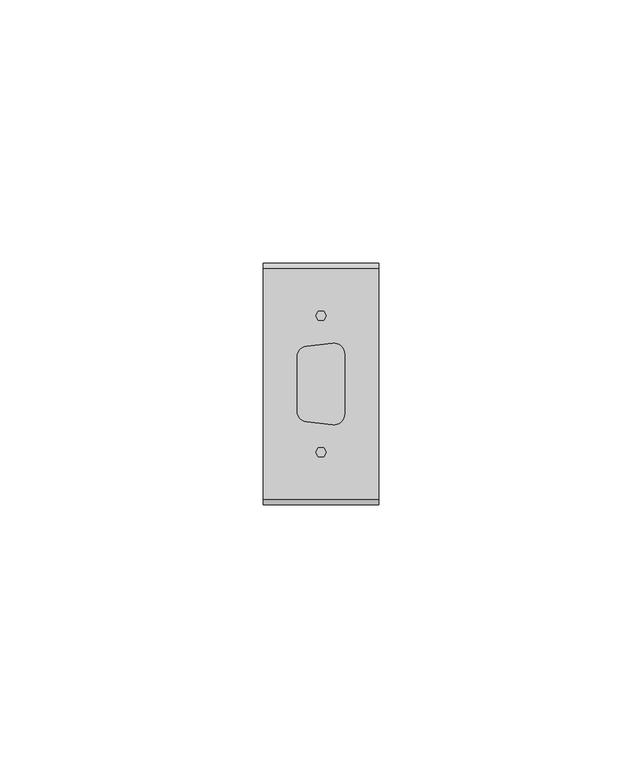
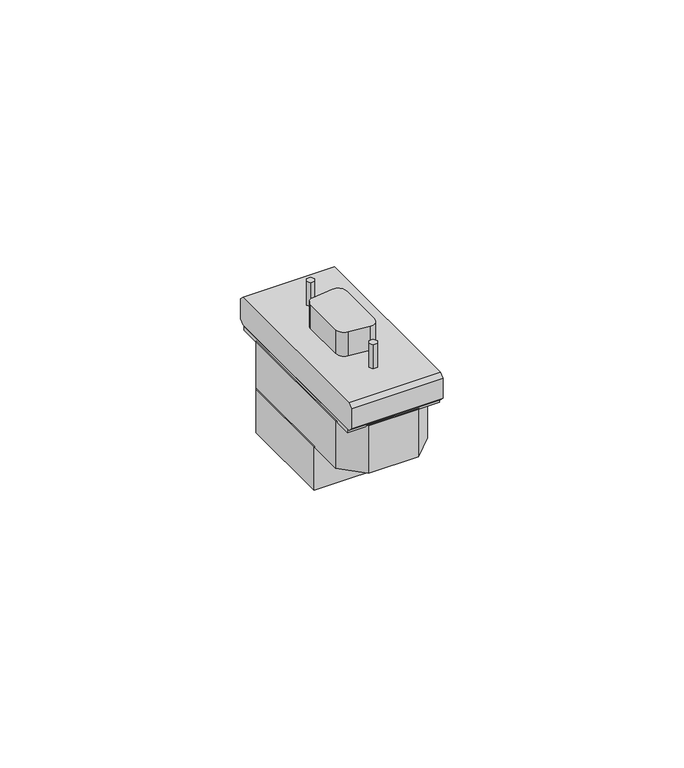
"""IFC4 building model written with IfcOpenShell, lengths in millimetres: proxy geometry, L4282 LI Presa Video HD15 : L4282 LI Presa Video HD15."""

from ifc_helpers import new_model, si_unit, point, frame, frame_2d, origin, origin_with_axes, place, context, project, spatial, polyline, circle_curve, trimmed, segment, composite_curve, outline, extrude, source, transform, mapped, element, save


def electrical_fixtures_90f661d9(model_context):
    return source(origin(), model_context, "Body", "SweptSolid", [
        extrude(outline(composite_curve([segment(trimmed(circle_curve(frame_2d((-2.5, 5.203525)), 2.0), [point((-4.5, 5.203525))], [point((-2.7138212, 7.1920622))], False, "CARTESIAN"), True, "CONTINUOUS"), segment(polyline([(-2.7138212, 7.1920622), (2.2861788, 7.7296966)]), True, "CONTINUOUS"), segment(trimmed(circle_curve(frame_2d((2.5, 5.7411594)), 2.0), [point((2.2861788, 7.7296966))], [point((4.5, 5.7411594))], False, "CARTESIAN"), True, "CONTINUOUS"), segment(polyline([(4.5, 5.7411594), (4.5, -5.76547)]), True, "CONTINUOUS"), segment(trimmed(circle_curve(frame_2d((2.5, -5.76547)), 2.0), [point((4.5, -5.76547))], [point((2.2791369, -7.7532374))], False, "CARTESIAN"), True, "CONTINUOUS"), segment(polyline([(2.2791369, -7.7532374), (-2.7208631, -7.1976819)]), True, "CONTINUOUS"), segment(trimmed(circle_curve(frame_2d((-2.5, -5.2099144)), 2.0), [point((-2.7208631, -7.1976819))], [point((-4.5, -5.2099144))], False, "CARTESIAN"), True, "CONTINUOUS"), segment(polyline([(-4.5, -5.2099144), (-4.5, 5.203525)]), True, "CONTINUOUS")], self_intersect=False)), frame((0.0, 0.0, 7.979899), z_axis=(0.0, 0.0, 1.0), x_axis=(1.0, 0.0, 0.0)), (0.0, 0.0, 1.0), 6.020101),
        extrude(outline(polyline([(0.5, 13.8660254), (1.0, 13.0), (0.5, 12.1339746), (-0.5, 12.1339746), (-1.0, 13.0), (-0.5, 13.8660254), (0.5, 13.8660254)])), frame((0.0, 0.0, 7.979899), z_axis=(0.0, 0.0, 1.0), x_axis=(1.0, 0.0, 0.0)), (0.0, 0.0, 1.0), 6.020101),
        extrude(outline(polyline([(0.5, -13.8660254), (-0.5, -13.8660254), (-1.0, -13.0), (-0.5, -12.1339746), (0.5, -12.1339746), (1.0, -13.0), (0.5, -13.8660254)])), frame((0.0, 0.0, 7.979899), z_axis=(0.0, 0.0, 1.0), x_axis=(1.0, 0.0, 0.0)), (0.0, 0.0, 1.0), 6.020101),
        extrude(outline(polyline([(-22.0, 1.0), (-22.9899495, 1.9899495), (-22.9899495, 6.9899495), (-22.0, 7.979899), (22.0, 7.979899), (22.9899495, 6.9899495), (22.9899495, 1.9899495), (22.0, 1.0), (-22.0, 1.0)])), frame((-11.0, 0.0, 0.0), z_axis=(1.0, 0.0, 0.0), x_axis=(0.0, 1.0, 0.0)), (0.0, 0.0, 1.0), 22.0),
        extrude(outline(polyline([(-11.0, -7.5), (-11.0, 16.5), (-9.0, 18.5), (9.0, 18.5), (11.0, 16.5), (11.0, -7.5), (-11.0, -7.5)])), frame((0.0, 0.0, -23.0), z_axis=(0.0, 0.0, 1.0), x_axis=(1.0, 0.0, 0.0)), (0.0, 0.0, 1.0), 11.0),
        extrude(outline(polyline([(11.0, -16.5), (6.0, -21.5), (-6.0, -21.5), (-11.0, -16.5), (-11.0, 16.5), (-6.0, 21.5), (6.0, 21.5), (11.0, 16.5), (11.0, -16.5)])), frame((0.0, 0.0, -12.0), z_axis=(0.0, 0.0, 1.0), x_axis=(1.0, 0.0, 0.0)), (0.0, 0.0, 1.0), 12.0),
        extrude(outline(polyline([(11.0, -21.5), (-11.0, -21.5), (-11.0, 21.5), (11.0, 21.5), (11.0, -21.5)])), origin_with_axes(), (0.0, 0.0, 1.0), 1.0),
    ])


if __name__ == "__main__":
    model = new_model("IFC4")
    model_context = context("Model", 3, world=origin())
    ifc_project = project(units=[si_unit("LENGTHUNIT", "METRE", prefix="MILLI")], contexts=[model_context])
    site = spatial("IfcSite", under=ifc_project)
    building = spatial("IfcBuilding", under=site)
    placement = place(None, origin())
    electrical_fixtures_shape = electrical_fixtures_90f661d9(model_context)
    element("IfcBuildingElementProxy", 1, Name="L4282 LI Presa Video HD15 : L4282 LI Presa Video HD15", ObjectType="L4282 LI Presa Video HD15 : L4282 LI Presa Video HD15", at=placement, inside=building, context=model_context, shape_type="MappedRepresentation", body=[
        mapped(electrical_fixtures_shape, transform((0.0, 0.0, 0.0), x_axis=(1.0, 0.0, 0.0), y_axis=(0.0, 1.0, 0.0), z_axis=(0.0, 0.0, 1.0))),
    ])
    save(model, "model.ifc")
